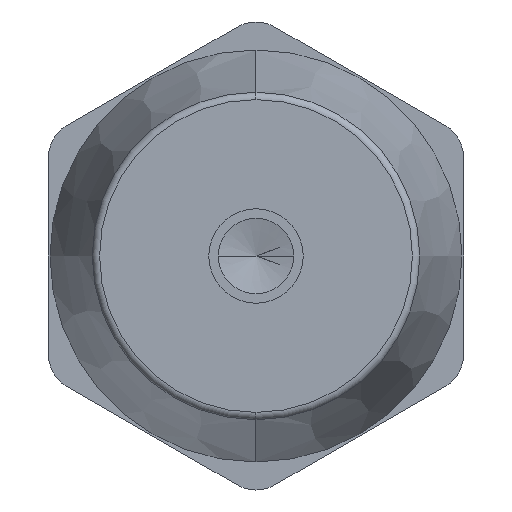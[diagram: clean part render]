
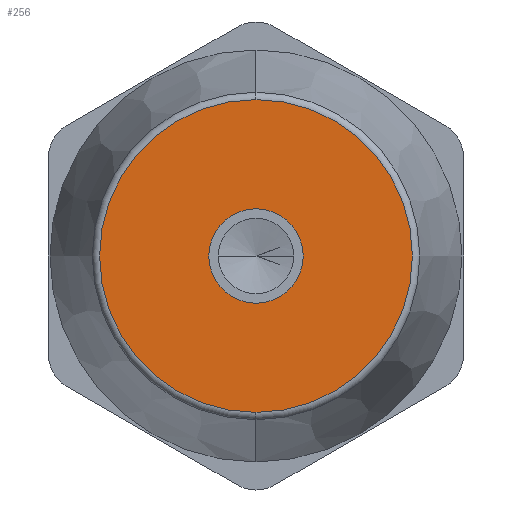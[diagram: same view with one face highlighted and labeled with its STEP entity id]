
A CAD part, front view. The second image highlights one B-rep face of the part: STEP entity #256.
In plain terms, the highlighted planar face has unit normal (0, -1, 0).
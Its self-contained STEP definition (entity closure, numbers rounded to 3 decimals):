
#44 = CIRCLE ( 'NONE', #354, 6.25 ) ;
#116 = EDGE_LOOP ( 'NONE', ( #1758, #1680 ) ) ;
#122 = EDGE_CURVE ( 'NONE', #567, #203, #44, .T. ) ;
#129 = DIRECTION ( 'NONE',  ( 0., 0., 1. ) ) ;
#203 = VERTEX_POINT ( 'NONE', #1248 ) ;
#256 = ADVANCED_FACE ( 'NONE', ( #1072, #1804 ), #2160, .F. ) ;
#260 = CARTESIAN_POINT ( 'NONE',  ( 0., 0., 0. ) ) ;
#265 = EDGE_CURVE ( 'NONE', #203, #567, #1239, .T. ) ;
#354 = AXIS2_PLACEMENT_3D ( 'NONE', #260, #1746, #2296 ) ;
#410 = EDGE_LOOP ( 'NONE', ( #2402, #2295 ) ) ;
#530 = VERTEX_POINT ( 'NONE', #1686 ) ;
#567 = VERTEX_POINT ( 'NONE', #852 ) ;
#574 = CARTESIAN_POINT ( 'NONE',  ( 0., 0., 0. ) ) ;
#687 = DIRECTION ( 'NONE',  ( 0., 1., 0. ) ) ;
#852 = CARTESIAN_POINT ( 'NONE',  ( -6.25, 0., 0. ) ) ;
#874 = CARTESIAN_POINT ( 'NONE',  ( 0., 0., 0. ) ) ;
#1013 = CARTESIAN_POINT ( 'NONE',  ( 0., 0., -20.705 ) ) ;
#1020 = CIRCLE ( 'NONE', #1331, 20.705 ) ;
#1072 = FACE_BOUND ( 'NONE', #116, .T. ) ;
#1173 = CIRCLE ( 'NONE', #2263, 20.705 ) ;
#1199 = AXIS2_PLACEMENT_3D ( 'NONE', #874, #687, #1831 ) ;
#1239 = CIRCLE ( 'NONE', #1199, 6.25 ) ;
#1248 = CARTESIAN_POINT ( 'NONE',  ( 6.25, 0., 0. ) ) ;
#1262 = DIRECTION ( 'NONE',  ( 0., 1., 0. ) ) ;
#1331 = AXIS2_PLACEMENT_3D ( 'NONE', #1633, #2383, #2200 ) ;
#1344 = DIRECTION ( 'NONE',  ( 0., 0., 1. ) ) ;
#1586 = VERTEX_POINT ( 'NONE', #1013 ) ;
#1633 = CARTESIAN_POINT ( 'NONE',  ( 0., 0., 0. ) ) ;
#1680 = ORIENTED_EDGE ( 'NONE', *, *, #265, .T. ) ;
#1686 = CARTESIAN_POINT ( 'NONE',  ( 0., 0., 20.705 ) ) ;
#1698 = DIRECTION ( 'NONE',  ( 0., -1., 0. ) ) ;
#1746 = DIRECTION ( 'NONE',  ( 0., 1., 0. ) ) ;
#1758 = ORIENTED_EDGE ( 'NONE', *, *, #122, .T. ) ;
#1793 = CARTESIAN_POINT ( 'NONE',  ( 27.5, 0., -15.877 ) ) ;
#1804 = FACE_OUTER_BOUND ( 'NONE', #410, .T. ) ;
#1831 = DIRECTION ( 'NONE',  ( -1., 0., 0. ) ) ;
#1927 = EDGE_CURVE ( 'NONE', #1586, #530, #1173, .T. ) ;
#1977 = AXIS2_PLACEMENT_3D ( 'NONE', #1793, #1262, #129 ) ;
#2160 = PLANE ( 'NONE',  #1977 ) ;
#2200 = DIRECTION ( 'NONE',  ( 0., 0., 1. ) ) ;
#2247 = EDGE_CURVE ( 'NONE', #530, #1586, #1020, .T. ) ;
#2263 = AXIS2_PLACEMENT_3D ( 'NONE', #574, #1698, #1344 ) ;
#2295 = ORIENTED_EDGE ( 'NONE', *, *, #1927, .T. ) ;
#2296 = DIRECTION ( 'NONE',  ( -1., 0., 0. ) ) ;
#2383 = DIRECTION ( 'NONE',  ( 0., -1., 0. ) ) ;
#2402 = ORIENTED_EDGE ( 'NONE', *, *, #2247, .T. ) ;
